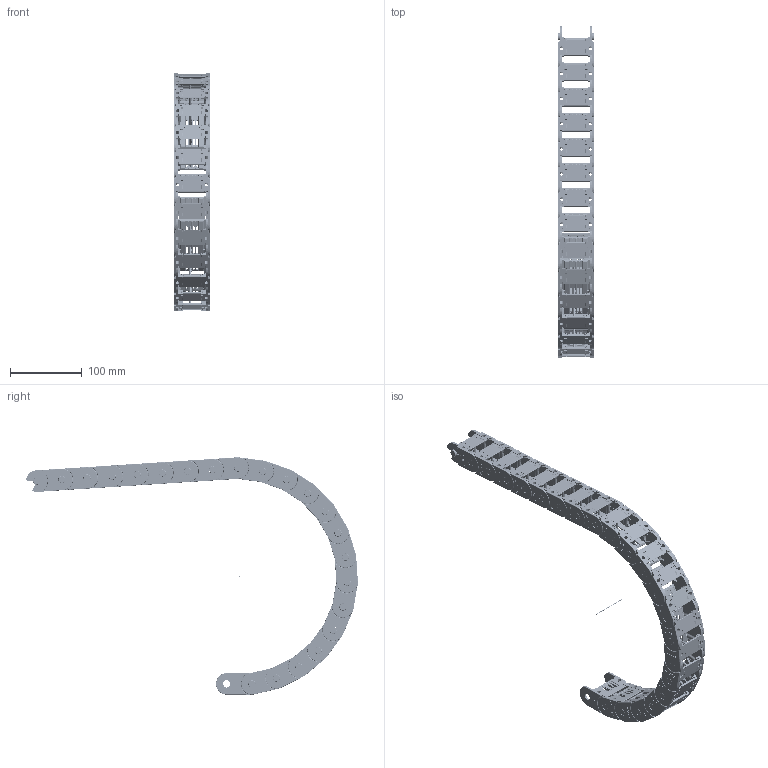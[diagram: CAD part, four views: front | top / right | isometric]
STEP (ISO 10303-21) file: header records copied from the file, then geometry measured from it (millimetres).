
FILE_DESCRIPTION((''),'2;1');
FILE_NAME('C:\Uebbing\PARAMETERKETTEN\KOLIBRI\Kol_30_050_1\KOLIBRI 30_050_1_R150.stp','2012-03-05T08:17:35',('Uebbing'),(''),'Autodesk Inventor 10','Autodesk Inventor 10','');
FILE_SCHEMA(('AUTOMOTIVE_DESIGN { 1 0 10303 214 1 1 1 1 }'));
Length unit declared in the file: millimetre
Products named in the file (6): KOLIBRI 30_050_1_PARAMETRISCH; Achse; Kol_30_050_1; PZ 30 Stecksteg; Kol 30_050_1 Lasche; Kol 30_050_0 Klappsteg
Assembly tree (26 placements, depth 3):
  KOLIBRI 30_050_1_PARAMETRISCH
    Achse
    Kol_30_050_1  x22
      PZ 30 Stecksteg
      Kol 30_050_1 Lasche
      Kol 30_050_0 Klappsteg
Bounding box: 50 x 461.29 x 329.99 mm (x, y, z)
Volume: 325225 mm3; surface area: 329633.3 mm2
Topology: 67 solids, 67 shells, 21013 faces, 57424 edges, 37623 vertices
Faces by surface type: plane 10584, bspline 5060, cylinder 4159, torus 946, cone 176, sphere 88
Full cylindrical faces by diameter (mm): 1 x1, 1.166 x22, 2.048 x22, 2.8 x176, 5.1 x44, 10 x22, 10.1 x44
Entity records: 33170 total; most frequent: CARTESIAN_POINT 9831, ORIENTED_EDGE 5142, DIRECTION 4214, EDGE_CURVE 2571, VERTEX_POINT 1699, VECTOR 1612, LINE 1612, AXIS2_PLACEMENT_3D 1301
